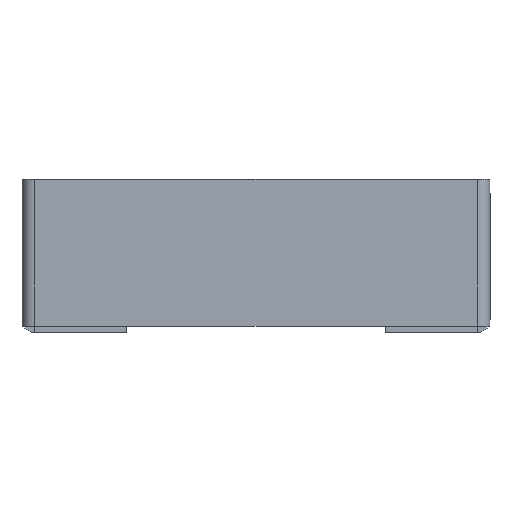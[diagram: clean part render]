
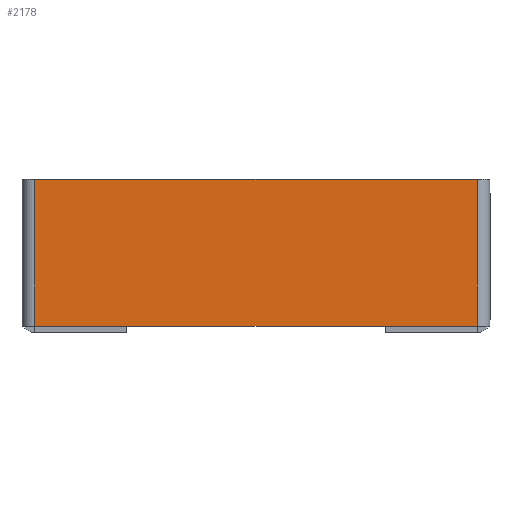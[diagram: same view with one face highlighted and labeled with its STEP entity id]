
A CAD part, front view. The second image highlights one B-rep face of the part: STEP entity #2178.
In plain terms, the highlighted planar face has unit normal (0, -1, 0).
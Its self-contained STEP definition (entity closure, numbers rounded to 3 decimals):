
#10 = EDGE_CURVE ( 'NONE', #4592, #95, #793, .T. ) ;
#34 = LINE ( 'NONE', #3161, #3125 ) ;
#87 = FACE_OUTER_BOUND ( 'NONE', #4451, .T. ) ;
#95 = VERTEX_POINT ( 'NONE', #3928 ) ;
#793 = LINE ( 'NONE', #970, #2825 ) ;
#970 = CARTESIAN_POINT ( 'NONE',  ( -87.5, -2.5, 0. ) ) ;
#2178 = ADVANCED_FACE ( 'NONE', ( #87 ), #3481, .F. ) ;
#2313 = DIRECTION ( 'NONE',  ( 0., 0., -1. ) ) ;
#2825 = VECTOR ( 'NONE', #2313, 1000. ) ;
#2876 = DIRECTION ( 'NONE',  ( 0., 0., 1. ) ) ;
#2902 = ORIENTED_EDGE ( 'NONE', *, *, #4877, .F. ) ;
#3125 = VECTOR ( 'NONE', #4454, 1000. ) ;
#3161 = CARTESIAN_POINT ( 'NONE',  ( 87.5, -2.5, -58. ) ) ;
#3481 = PLANE ( 'NONE',  #6402 ) ;
#3603 = DIRECTION ( 'NONE',  ( 1., 0., 0. ) ) ;
#3614 = VERTEX_POINT ( 'NONE', #6216 ) ;
#3617 = LINE ( 'NONE', #5418, #7298 ) ;
#3846 = CARTESIAN_POINT ( 'NONE',  ( -90., -2.5, -58. ) ) ;
#3928 = CARTESIAN_POINT ( 'NONE',  ( -87.5, -2.5, -58. ) ) ;
#4087 = VECTOR ( 'NONE', #6800, 1000. ) ;
#4384 = ORIENTED_EDGE ( 'NONE', *, *, #4890, .T. ) ;
#4451 = EDGE_LOOP ( 'NONE', ( #5384, #2902, #4384, #6331 ) ) ;
#4454 = DIRECTION ( 'NONE',  ( 0., 0., 1. ) ) ;
#4592 = VERTEX_POINT ( 'NONE', #7784 ) ;
#4748 = EDGE_CURVE ( 'NONE', #4592, #7216, #3617, .T. ) ;
#4768 = CARTESIAN_POINT ( 'NONE',  ( 0., -2.5, 0. ) ) ;
#4877 = EDGE_CURVE ( 'NONE', #3614, #95, #5147, .T. ) ;
#4890 = EDGE_CURVE ( 'NONE', #3614, #7216, #34, .T. ) ;
#5147 = LINE ( 'NONE', #3846, #4087 ) ;
#5325 = CARTESIAN_POINT ( 'NONE',  ( 87.5, -2.5, 0. ) ) ;
#5384 = ORIENTED_EDGE ( 'NONE', *, *, #10, .T. ) ;
#5418 = CARTESIAN_POINT ( 'NONE',  ( -90., -2.5, 0. ) ) ;
#6216 = CARTESIAN_POINT ( 'NONE',  ( 87.5, -2.5, -58. ) ) ;
#6331 = ORIENTED_EDGE ( 'NONE', *, *, #4748, .F. ) ;
#6402 = AXIS2_PLACEMENT_3D ( 'NONE', #4768, #6514, #2876 ) ;
#6514 = DIRECTION ( 'NONE',  ( 0., 1., 0. ) ) ;
#6800 = DIRECTION ( 'NONE',  ( -1., 0., 0. ) ) ;
#7216 = VERTEX_POINT ( 'NONE', #5325 ) ;
#7298 = VECTOR ( 'NONE', #3603, 1000. ) ;
#7784 = CARTESIAN_POINT ( 'NONE',  ( -87.5, -2.5, 0. ) ) ;
